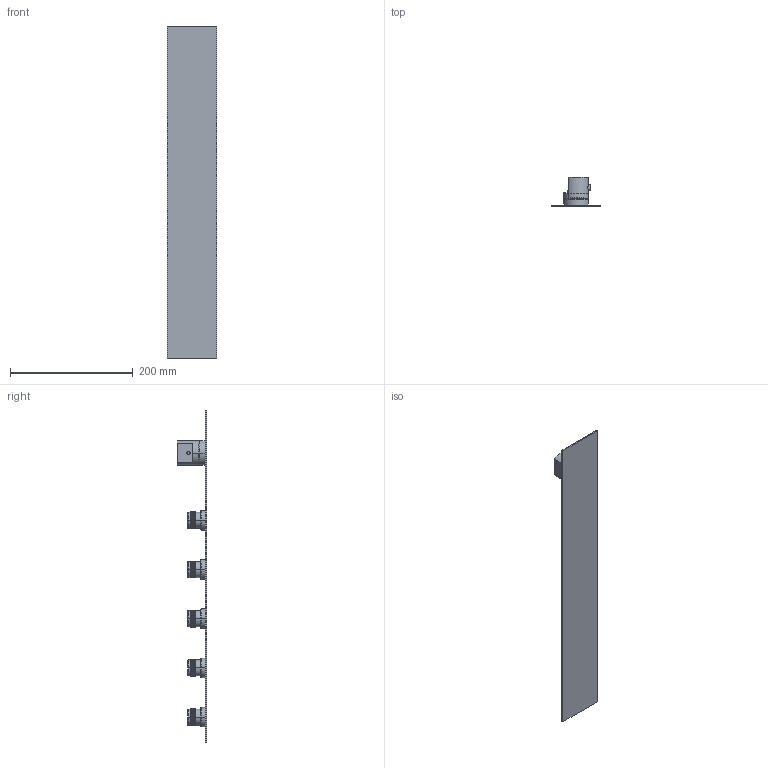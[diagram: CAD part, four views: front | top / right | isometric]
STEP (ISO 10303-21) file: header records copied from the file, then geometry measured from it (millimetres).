
FILE_DESCRIPTION((''),'2;1');
FILE_NAME('89600V521_SW0001','2025-11-24T17:17:23',('carloff'),(''),'CREO PARAMETRIC BY PTC INC, 2022014','CREO PARAMETRIC BY PTC INC, 2022014','');
FILE_SCHEMA(('CONFIG_CONTROL_DESIGN'));
Products named in the file (1): 89600V521_SW0001
Bounding box: 80 x 47.4 x 540 mm (x, y, z)
Volume: 204529.9 mm3; surface area: 115107.4 mm2
Topology: 2 solids, 2 shells, 8257 faces, 20553 edges, 13579 vertices
Faces by surface type: bspline 6400, cylinder 1775, plane 40, torus 22, sphere 10, cone 10
Entity records: 349966 total; most frequent: CARTESIAN_POINT 197062, ORIENTED_EDGE 41082, EDGE_CURVE 20541, VERTEX_POINT 13579, B_SPLINE_CURVE_WITH_KNOTS 12964, DIRECTION 12069, EDGE_LOOP 9548, FACE_OUTER_BOUND 8257
